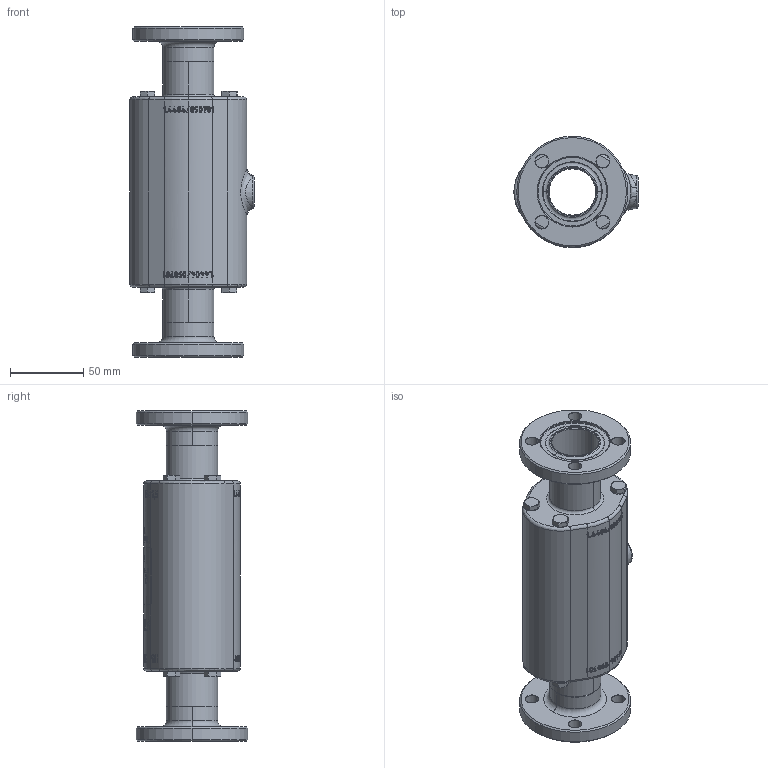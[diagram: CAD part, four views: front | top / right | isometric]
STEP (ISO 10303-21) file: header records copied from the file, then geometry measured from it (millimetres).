
FILE_DESCRIPTION (( 'STEP AP214' ), '1' );
FILE_NAME ('VMC32xx50RF50_EV.STEP', '2015-02-27T07:33:14', ( '' ), ( '' ), 'SwSTEP 2.0', 'SolidWorks 2015', '' );
FILE_SCHEMA (( 'AUTOMOTIVE_DESIGN' ));
Length unit declared in the file: millimetre
Products named in the file (1): VMC32xx50RF50_EV
Bounding box: 85 x 76 x 226 mm (x, y, z)
Volume: 496223.8 mm3; surface area: 89522.8 mm2
Topology: 3 solids, 11 shells, 2187 faces, 5919 edges, 3858 vertices
Faces by surface type: bspline 1179, plane 613, cylinder 211, cone 128, torus 56
Entity records: 144408 total; most frequent: CARTESIAN_POINT 74943, ORIENTED_EDGE 11838, EDGE_CURVE 5919, DIRECTION 5455, VERTEX_POINT 3858, B_SPLINE_CURVE_WITH_KNOTS 3190, EDGE_LOOP 2329, ADVANCED_FACE 2187
